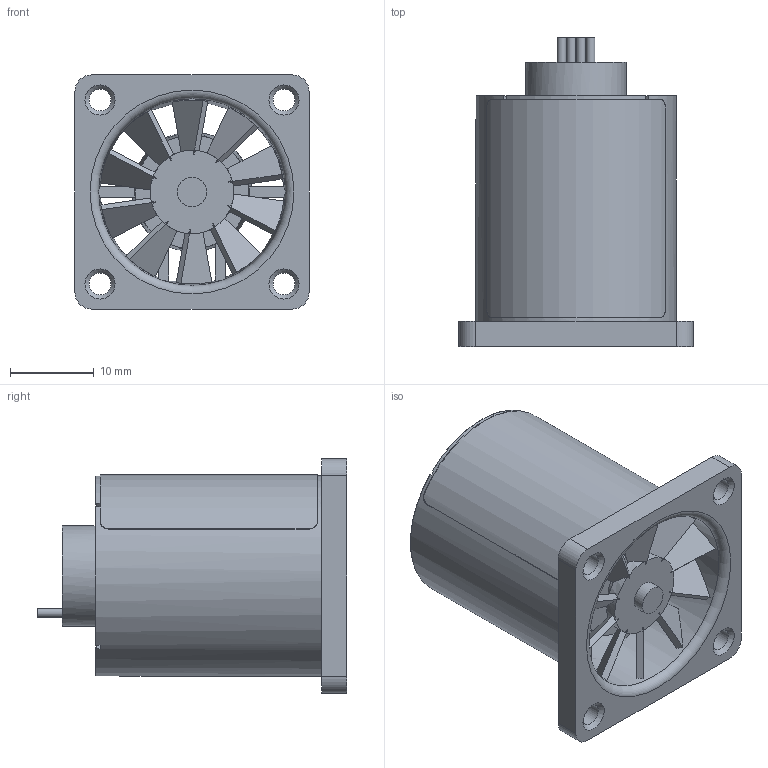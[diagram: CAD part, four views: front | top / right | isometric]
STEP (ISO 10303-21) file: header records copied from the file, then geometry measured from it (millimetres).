
FILE_DESCRIPTION(/* description */ (''),/* implementation_level */ '2;1');
FILE_NAME(/* name */ 'Fan D244P-006KH-4.stp',/* time_stamp */ '2021-04-19T13:17:14+02:00',/* author */ (''),/* organization */ (''),/* preprocessor_version */ 'ST-DEVELOPER v16.7',/* originating_system */ 'SIEMENS PLM Software NX 1946',/* authorisation */ '');
FILE_SCHEMA (('AUTOMOTIVE_DESIGN { 1 0 10303 214 3 1 1 1 }'));
Length unit declared in the file: millimetre
Products named in the file (1): 015793_1-Fan D244P-006KH-4 _-_
Bounding box: 28 x 37 x 28 mm (x, y, z)
Surface area: 8638.4 mm2 (no closed solid volume)
Topology: 0 solids, 1 shells, 249 faces, 704 edges, 465 vertices
Faces by surface type: plane 184, cylinder 49, cone 14, torus 2
Full cylindrical faces by diameter (mm): 1.05 x4, 1.25 x2, 1.5 x1, 2.5 x1, 2.6 x4, 3.5 x2, 5 x1, 12 x1, 24 x1
Entity records: 8212 total; most frequent: CARTESIAN_POINT 1639, DIRECTION 1339, ORIENTED_EDGE 1302, EDGE_CURVE 651, AXIS2_PLACEMENT_3D 470, VERTEX_POINT 450, LINE 399, VECTOR 399
